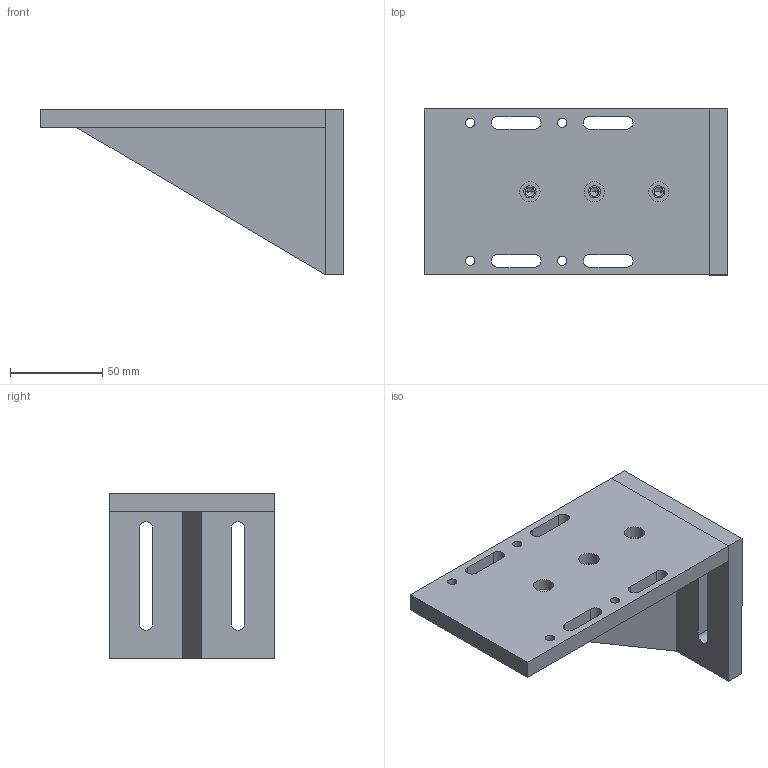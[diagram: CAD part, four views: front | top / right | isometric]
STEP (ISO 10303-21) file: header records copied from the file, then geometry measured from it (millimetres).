
FILE_DESCRIPTION (( 'STEP AP203' ), '1' );
FILE_NAME ('眻褒輸 HGMBR6.STEP', '2021-01-29T01:14:47', ( 'yunke' ), ( '' ), 'SwSTEP 2.0', 'SolidWorks 2020', '' );
FILE_SCHEMA (( 'CONFIG_CONTROL_DESIGN' ));
Length unit declared in the file: millimetre
Products named in the file (4): 眻褒輸 HGMBR6; HGMBR6-03 眻褒輸蕾啣; HGMBR6-02 眻褒輸菁啣; HGMBR6-01 眻褒輸鍼踐
Assembly tree (3 placements, depth 2):
  眻褒輸 HGMBR6
    HGMBR6-02 眻褒輸菁啣
    HGMBR6-01 眻褒輸鍼踐
    HGMBR6-03 眻褒輸蕾啣
Bounding box: 165 x 90 x 90 mm (x, y, z)
Volume: 252930.7 mm3; surface area: 72146.8 mm2
Topology: 3 solids, 3 shells, 98 faces, 251 edges, 159 vertices
Faces by surface type: cylinder 54, plane 34, cone 10
Entity records: 3407 total; most frequent: DIRECTION 557, CARTESIAN_POINT 504, ORIENTED_EDGE 482, EDGE_CURVE 241, AXIS2_PLACEMENT_3D 212, VERTEX_POINT 159, EDGE_LOOP 138, LINE 133
